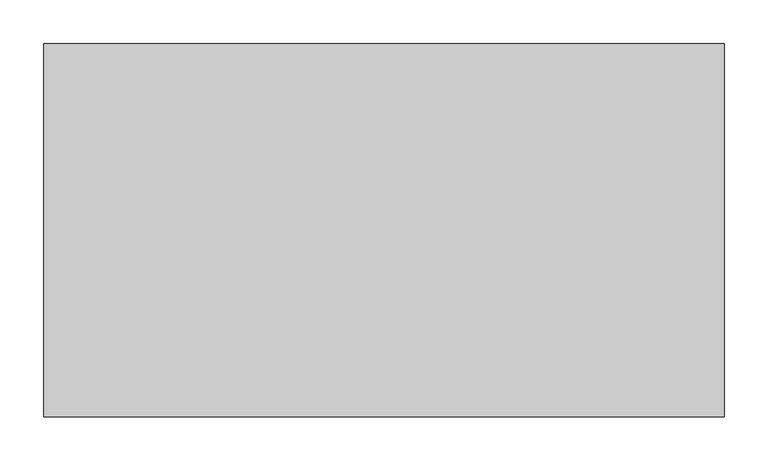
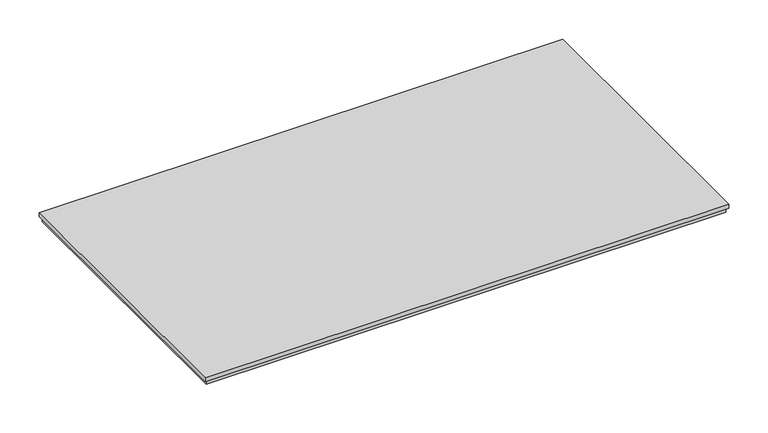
"""IFC4 building model written with IfcOpenShell, lengths in millimetres: proxy geometry, CAMBRIDGE^TABLE 2_4884 Rect-OUT SIDE PANEL 2."""

from ifc_helpers import new_model, si_unit, origin, place, context, project, spatial, faceted_brep, source, transform, mapped, element, save


def generic_models_d604c78f(model_context):
    return source(origin(), model_context, "Body", "Brep", [
        faceted_brep([(714.375, -536.575, -812.8), (714.375, -536.575, -809.625), (714.375, -180.975, -809.625), (714.375, -180.975, -812.8), (682.625, -568.325, -801.1176131), (682.625, -149.225, -801.1176131), (682.625, -568.325, -793.75), (682.625, -149.225, -793.75), (1419.225, -536.575, -812.8), (1419.225, -536.575, -809.625), (1450.975, -568.325, -801.1176131), (1450.975, -568.325, -793.75), (679.45, -146.05, -793.75), (1454.15, -146.05, -793.75), (1454.15, -571.5, -793.75), (679.45, -571.5, -793.75), (1450.975, -149.225, -793.75), (1419.225, -180.975, -812.8), (1419.225, -180.975, -809.625), (1450.975, -149.225, -801.1176131), (679.45, -571.5, -787.4), (679.45, -146.05, -787.4), (1454.15, -571.5, -787.4), (1454.15, -146.05, -787.4)], [[[0, 1, 2, 3]], [[1, 4, 5, 2]], [[4, 6, 7, 5]], [[8, 9, 1, 0]], [[9, 10, 4, 1]], [[10, 11, 6, 4]], [[12, 13, 14, 15], [11, 16, 7, 6]], [[17, 18, 9, 8]], [[18, 19, 10, 9]], [[19, 16, 11, 10]], [[3, 2, 18, 17]], [[2, 5, 19, 18]], [[5, 7, 16, 19]], [[12, 15, 20, 21]], [[15, 14, 22, 20]], [[14, 13, 23, 22]], [[13, 12, 21, 23]], [[0, 3, 17, 8]], [[20, 22, 23, 21]]]),
    ])


if __name__ == "__main__":
    model = new_model("IFC4")
    model_context = context("Model", 3, world=origin())
    ifc_project = project(units=[si_unit("LENGTHUNIT", "METRE", prefix="MILLI")], contexts=[model_context])
    site = spatial("IfcSite", under=ifc_project)
    building = spatial("IfcBuilding", under=site)
    placement = place(None, origin())
    generic_models_shape = generic_models_d604c78f(model_context)
    element("IfcBuildingElementProxy", 1, Name="CAMBRIDGE^TABLE 2_4884 Rect-OUT SIDE PANEL 2", ObjectType="CAMBRIDGE^TABLE 2_4884 Rect-OUT SIDE PANEL 2", at=placement, inside=building, context=model_context, shape_type="MappedRepresentation", body=[
        mapped(generic_models_shape, transform((0.0, 0.0, 0.0), x_axis=(1.0, 0.0, 0.0), y_axis=(0.0, 1.0, 0.0), z_axis=(0.0, 0.0, 1.0))),
    ])
    save(model, "model.ifc")
